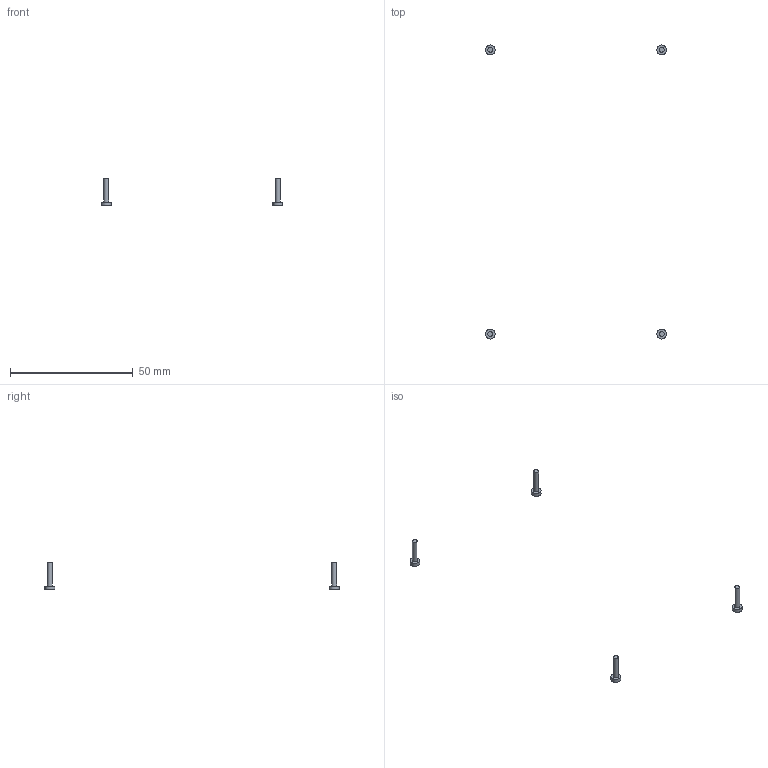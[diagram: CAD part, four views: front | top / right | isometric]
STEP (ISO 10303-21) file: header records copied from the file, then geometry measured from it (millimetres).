
FILE_DESCRIPTION(('Open CASCADE Model'),'2;1');
FILE_NAME('Open CASCADE Shape Model','2026-09-09T12:58:10',('Author'),( 'Open CASCADE'),'Open CASCADE STEP processor 7.9','Open CASCADE 7.9' ,'Unknown');
FILE_SCHEMA(('AUTOMOTIVE_DESIGN { 1 0 10303 214 1 1 1 1 }'));
Length unit declared in the file: millimetre
Products named in the file (5): Open CASCADE STEP translator 7.9 40; Open CASCADE STEP translator 7.9 40.1; Open CASCADE STEP translator 7.9 40.2; Open CASCADE STEP translator 7.9 40.3; Open CASCADE STEP translator 7.9 40.4
Assembly tree (4 placements, depth 2):
  Open CASCADE STEP translator 7.9 40
    Open CASCADE STEP translator 7.9 40.1
    Open CASCADE STEP translator 7.9 40.2
    Open CASCADE STEP translator 7.9 40.3
    Open CASCADE STEP translator 7.9 40.4
Bounding box: 74 x 120 x 11.2 mm (x, y, z)
Volume: 197.3 mm3; surface area: 419.7 mm2
Topology: 4 solids, 4 shells, 20 faces, 24 edges, 16 vertices
Faces by surface type: plane 12, cylinder 8
Full cylindrical faces by diameter (mm): 2 x4, 4 x4
Entity records: 804 total; most frequent: CARTESIAN_POINT 137, DIRECTION 134, ORIENTED_EDGE 48, PCURVE 48, DEFINITIONAL_REPRESENTATION 48, AXIS2_PLACEMENT_3D 41, LINE 40, VECTOR 40
